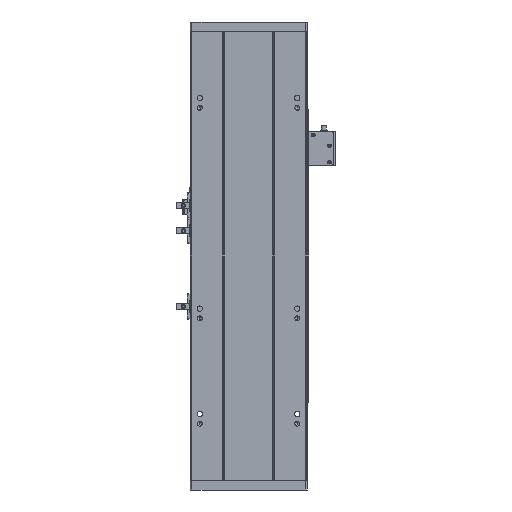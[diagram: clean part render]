
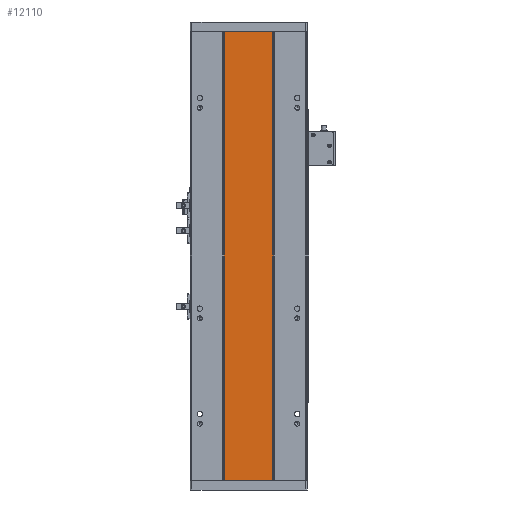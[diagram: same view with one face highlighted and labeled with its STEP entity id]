
A CAD part, front view. The second image highlights one B-rep face of the part: STEP entity #12110.
In plain terms, the highlighted planar face has unit normal (0, -1, 0).
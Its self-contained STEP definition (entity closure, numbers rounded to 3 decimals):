
#358 = VERTEX_POINT ( 'NONE', #22741 ) ;
#2010 = ORIENTED_EDGE ( 'NONE', *, *, #14915, .T. ) ;
#2407 = AXIS2_PLACEMENT_3D ( 'NONE', #9011, #14519, #5289 ) ;
#2723 = EDGE_CURVE ( 'NONE', #358, #18221, #17080, .T. ) ;
#3663 = ORIENTED_EDGE ( 'NONE', *, *, #2723, .F. ) ;
#4388 = CARTESIAN_POINT ( 'NONE',  ( 133.07, 115.96, 0. ) ) ;
#5143 = VECTOR ( 'NONE', #11189, 1000. ) ;
#5281 = VERTEX_POINT ( 'NONE', #11653 ) ;
#5289 = DIRECTION ( 'NONE',  ( -1., 0., 0. ) ) ;
#5364 = PLANE ( 'NONE',  #2407 ) ;
#5508 = CARTESIAN_POINT ( 'NONE',  ( 0., 115.96, 460. ) ) ;
#6786 = DIRECTION ( 'NONE',  ( 1., 0., 0. ) ) ;
#7599 = DIRECTION ( 'NONE',  ( 0., 0., -1. ) ) ;
#8150 = LINE ( 'NONE', #16041, #20615 ) ;
#9011 = CARTESIAN_POINT ( 'NONE',  ( 0., 115.96, 460. ) ) ;
#9149 = CARTESIAN_POINT ( 'NONE',  ( 133.07, 115.96, 460. ) ) ;
#9314 = CARTESIAN_POINT ( 'NONE',  ( 183.063, 115.96, 460. ) ) ;
#11189 = DIRECTION ( 'NONE',  ( 0., 0., -1. ) ) ;
#11653 = CARTESIAN_POINT ( 'NONE',  ( 133.07, 115.96, 460. ) ) ;
#12110 = ADVANCED_FACE ( 'NONE', ( #12223 ), #5364, .F. ) ;
#12223 = FACE_OUTER_BOUND ( 'NONE', #21619, .T. ) ;
#14128 = VECTOR ( 'NONE', #7599, 1000. ) ;
#14519 = DIRECTION ( 'NONE',  ( 0., 1., 0. ) ) ;
#14573 = DIRECTION ( 'NONE',  ( 1., 0., 0. ) ) ;
#14915 = EDGE_CURVE ( 'NONE', #5281, #15585, #20506, .T. ) ;
#15449 = LINE ( 'NONE', #5508, #21231 ) ;
#15533 = ORIENTED_EDGE ( 'NONE', *, *, #17464, .T. ) ;
#15585 = VERTEX_POINT ( 'NONE', #4388 ) ;
#16041 = CARTESIAN_POINT ( 'NONE',  ( 0., 115.96, 0. ) ) ;
#17080 = LINE ( 'NONE', #9314, #14128 ) ;
#17464 = EDGE_CURVE ( 'NONE', #15585, #18221, #8150, .T. ) ;
#18221 = VERTEX_POINT ( 'NONE', #18273 ) ;
#18273 = CARTESIAN_POINT ( 'NONE',  ( 183.063, 115.96, 0. ) ) ;
#18314 = ORIENTED_EDGE ( 'NONE', *, *, #20423, .F. ) ;
#20423 = EDGE_CURVE ( 'NONE', #5281, #358, #15449, .T. ) ;
#20506 = LINE ( 'NONE', #9149, #5143 ) ;
#20615 = VECTOR ( 'NONE', #6786, 1000. ) ;
#21231 = VECTOR ( 'NONE', #14573, 1000. ) ;
#21619 = EDGE_LOOP ( 'NONE', ( #15533, #3663, #18314, #2010 ) ) ;
#22741 = CARTESIAN_POINT ( 'NONE',  ( 183.063, 115.96, 460. ) ) ;
